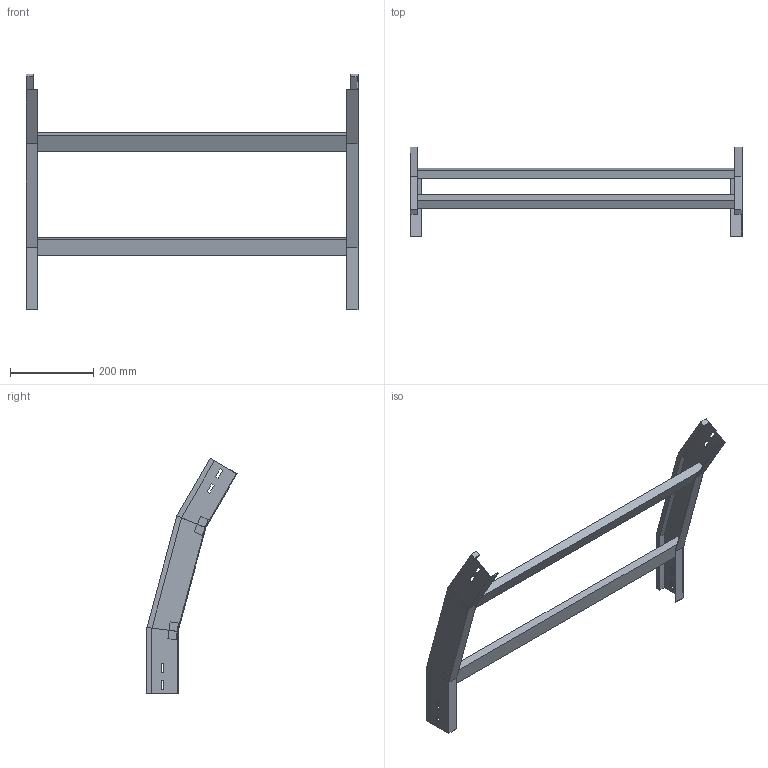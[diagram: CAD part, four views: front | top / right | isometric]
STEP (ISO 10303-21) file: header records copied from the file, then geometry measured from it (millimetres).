
FILE_DESCRIPTION (( 'STEP AP214' ), '1' );
FILE_NAME ('35B5C800.step', '2025-02-21T14:49:35', ( '' ), ( '' ), 'SwSTEP 2.0', 'SolidWorks 2023', '' );
FILE_SCHEMA (( 'AUTOMOTIVE_DESIGN' ));
Length unit declared in the file: millimetre
Products named in the file (3): TRAVERSINO_800; 35B5C800; LONGH.DISCESA_30°_H75_R500
Assembly tree (5 placements, depth 2):
  35B5C800
    LONGH.DISCESA_30°_H75_R500  x2
    TRAVERSINO_800  x3
Bounding box: 800 x 217.03 x 567.58 mm (x, y, z)
Volume: 2390002.1 mm3; surface area: 566148.5 mm2
Topology: 5 solids, 5 shells, 102 faces, 244 edges, 152 vertices
Faces by surface type: plane 102
Entity records: 1480 total; most frequent: CARTESIAN_POINT 244, ORIENTED_EDGE 232, DIRECTION 228, LINE 116, VECTOR 116, EDGE_CURVE 116, VERTEX_POINT 72, EDGE_LOOP 56
